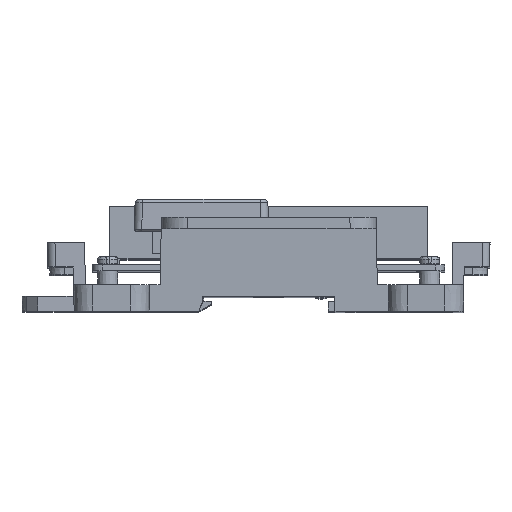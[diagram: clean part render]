
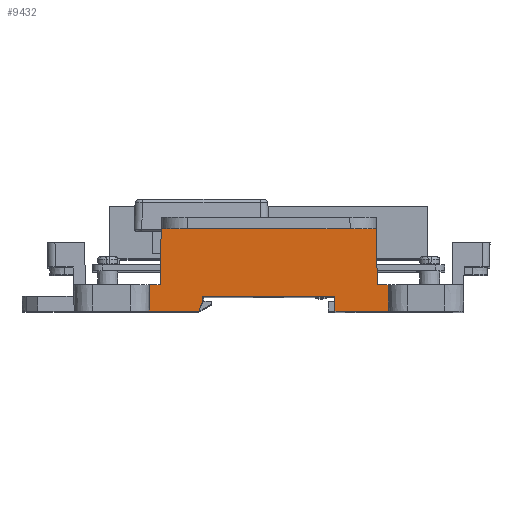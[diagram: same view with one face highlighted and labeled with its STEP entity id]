
A CAD part, top view. The second image highlights one B-rep face of the part: STEP entity #9432.
In plain terms, the highlighted planar face has unit normal (0, -0.018, 1).
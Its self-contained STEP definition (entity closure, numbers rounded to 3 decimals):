
#1366 = LINE ( 'NONE', #65592, #74028 ) ;
#1522 = EDGE_CURVE ( 'NONE', #5820, #2918, #64059, .T. ) ;
#1609 = LINE ( 'NONE', #52935, #16975 ) ;
#2357 = EDGE_CURVE ( 'NONE', #75675, #75863, #13235, .T. ) ;
#2918 = VERTEX_POINT ( 'NONE', #24178 ) ;
#3148 = EDGE_CURVE ( 'NONE', #26474, #33131, #80636, .T. ) ;
#4126 = DIRECTION ( 'NONE',  ( 1., 0., 0. ) ) ;
#4394 = ORIENTED_EDGE ( 'NONE', *, *, #2357, .T. ) ;
#4576 = VECTOR ( 'NONE', #62556, 1000. ) ;
#5820 = VERTEX_POINT ( 'NONE', #34299 ) ;
#6411 = CARTESIAN_POINT ( 'NONE',  ( 17.7, 0., 236.07 ) ) ;
#7372 = VECTOR ( 'NONE', #48095, 1000. ) ;
#7994 = ORIENTED_EDGE ( 'NONE', *, *, #43654, .T. ) ;
#9243 = LINE ( 'NONE', #9667, #36370 ) ;
#9432 = ADVANCED_FACE ( 'NONE', ( #38001 ), #45307, .T. ) ;
#9667 = CARTESIAN_POINT ( 'NONE',  ( 31.981, -2.884, 236.019 ) ) ;
#9977 = VECTOR ( 'NONE', #33102, 1000. ) ;
#10478 = CARTESIAN_POINT ( 'NONE',  ( -17.7, -4., 236. ) ) ;
#10800 = LINE ( 'NONE', #23728, #7372 ) ;
#11351 = VECTOR ( 'NONE', #17467, 1000. ) ;
#13235 = LINE ( 'NONE', #64172, #9977 ) ;
#14649 = CARTESIAN_POINT ( 'NONE',  ( 29., 18., 236.384 ) ) ;
#14893 = VERTEX_POINT ( 'NONE', #42844 ) ;
#16234 = VERTEX_POINT ( 'NONE', #64135 ) ;
#16975 = VECTOR ( 'NONE', #40805, 1000. ) ;
#17467 = DIRECTION ( 'NONE',  ( 1., 0., 0. ) ) ;
#17994 = CARTESIAN_POINT ( 'NONE',  ( -32.001, -4.052, 235.999 ) ) ;
#18458 = CARTESIAN_POINT ( 'NONE',  ( 17.7, -4., 236. ) ) ;
#22584 = DIRECTION ( 'NONE',  ( 0.371, 0.928, 0.016 ) ) ;
#23728 = CARTESIAN_POINT ( 'NONE',  ( 29.104, -2.934, 236.019 ) ) ;
#24178 = CARTESIAN_POINT ( 'NONE',  ( -18.7, -4., 236. ) ) ;
#25529 = VECTOR ( 'NONE', #4126, 1000. ) ;
#26474 = VERTEX_POINT ( 'NONE', #80670 ) ;
#27195 = EDGE_CURVE ( 'NONE', #66623, #14893, #1366, .T. ) ;
#27559 = DIRECTION ( 'NONE',  ( 1., 0., 0. ) ) ;
#30259 = LINE ( 'NONE', #50590, #52927 ) ;
#30533 = ORIENTED_EDGE ( 'NONE', *, *, #3148, .F. ) ;
#31294 = DIRECTION ( 'NONE',  ( 0.017, 1., 0.017 ) ) ;
#31380 = ORIENTED_EDGE ( 'NONE', *, *, #79598, .T. ) ;
#32166 = CARTESIAN_POINT ( 'NONE',  ( 32., -4., 236. ) ) ;
#32896 = VECTOR ( 'NONE', #27559, 1000. ) ;
#33102 = DIRECTION ( 'NONE',  ( 0., -1., -0.017 ) ) ;
#33131 = VERTEX_POINT ( 'NONE', #63739 ) ;
#33186 = EDGE_CURVE ( 'NONE', #65722, #26474, #1609, .T. ) ;
#34299 = CARTESIAN_POINT ( 'NONE',  ( -32., -4., 236. ) ) ;
#35618 = ORIENTED_EDGE ( 'NONE', *, *, #27195, .F. ) ;
#35967 = DIRECTION ( 'NONE',  ( -0.017, 1., 0.017 ) ) ;
#36370 = VECTOR ( 'NONE', #35967, 1000. ) ;
#36537 = ORIENTED_EDGE ( 'NONE', *, *, #44020, .F. ) ;
#37437 = ORIENTED_EDGE ( 'NONE', *, *, #49680, .T. ) ;
#38001 = FACE_OUTER_BOUND ( 'NONE', #54973, .T. ) ;
#38442 = LINE ( 'NONE', #38865, #60864 ) ;
#38865 = CARTESIAN_POINT ( 'NONE',  ( -32., 0., 236.07 ) ) ;
#39544 = EDGE_CURVE ( 'NONE', #5820, #67320, #50328, .T. ) ;
#39939 = ORIENTED_EDGE ( 'NONE', *, *, #39544, .F. ) ;
#40805 = DIRECTION ( 'NONE',  ( 0.017, 1., 0.017 ) ) ;
#41809 = VECTOR ( 'NONE', #81639, 1000. ) ;
#42469 = EDGE_CURVE ( 'NONE', #75863, #75143, #69214, .T. ) ;
#42844 = CARTESIAN_POINT ( 'NONE',  ( 31.878, 3., 236.122 ) ) ;
#43654 = EDGE_CURVE ( 'NONE', #53039, #16234, #75595, .T. ) ;
#43722 = EDGE_CURVE ( 'NONE', #2918, #53039, #30259, .T. ) ;
#44020 = EDGE_CURVE ( 'NONE', #67320, #65722, #69860, .T. ) ;
#45307 = PLANE ( 'NONE',  #67440 ) ;
#45753 = DIRECTION ( 'NONE',  ( 0., -1., -0.017 ) ) ;
#47950 = ORIENTED_EDGE ( 'NONE', *, *, #33186, .F. ) ;
#48095 = DIRECTION ( 'NONE',  ( 0.017, -1., -0.017 ) ) ;
#49680 = EDGE_CURVE ( 'NONE', #75143, #14893, #9243, .T. ) ;
#49805 = CARTESIAN_POINT ( 'NONE',  ( -31.878, 3., 236.122 ) ) ;
#50328 = LINE ( 'NONE', #17994, #68654 ) ;
#50590 = CARTESIAN_POINT ( 'NONE',  ( -20.534, -8.585, 235.92 ) ) ;
#51391 = CARTESIAN_POINT ( 'NONE',  ( -32., -4., 236. ) ) ;
#51619 = ORIENTED_EDGE ( 'NONE', *, *, #43722, .T. ) ;
#52863 = ORIENTED_EDGE ( 'NONE', *, *, #60454, .F. ) ;
#52927 = VECTOR ( 'NONE', #22584, 1000. ) ;
#52935 = CARTESIAN_POINT ( 'NONE',  ( -29.123, -4.05, 235.999 ) ) ;
#53039 = VERTEX_POINT ( 'NONE', #83196 ) ;
#53961 = DIRECTION ( 'NONE',  ( 1., 0., 0. ) ) ;
#54785 = ORIENTED_EDGE ( 'NONE', *, *, #1522, .T. ) ;
#54973 = EDGE_LOOP ( 'NONE', ( #54785, #51619, #7994, #31380, #4394, #55896, #37437, #35618, #52863, #30533, #47950, #36537, #39939 ) ) ;
#55896 = ORIENTED_EDGE ( 'NONE', *, *, #42469, .T. ) ;
#60454 = EDGE_CURVE ( 'NONE', #33131, #66623, #10800, .T. ) ;
#60864 = VECTOR ( 'NONE', #70797, 1000. ) ;
#62497 = CARTESIAN_POINT ( 'NONE',  ( 29., 3., 236.122 ) ) ;
#62556 = DIRECTION ( 'NONE',  ( 1., 0., 0. ) ) ;
#62761 = CARTESIAN_POINT ( 'NONE',  ( -32., -4., 236. ) ) ;
#63206 = CARTESIAN_POINT ( 'NONE',  ( -32., -4., 236. ) ) ;
#63739 = CARTESIAN_POINT ( 'NONE',  ( 28.738, 18., 236.384 ) ) ;
#64059 = LINE ( 'NONE', #63206, #25529 ) ;
#64135 = CARTESIAN_POINT ( 'NONE',  ( -17.7, 0., 236.07 ) ) ;
#64172 = CARTESIAN_POINT ( 'NONE',  ( 17.7, -4., 236. ) ) ;
#65592 = CARTESIAN_POINT ( 'NONE',  ( -32., 3., 236.122 ) ) ;
#65722 = VERTEX_POINT ( 'NONE', #79356 ) ;
#66623 = VERTEX_POINT ( 'NONE', #62497 ) ;
#67320 = VERTEX_POINT ( 'NONE', #49805 ) ;
#67440 = AXIS2_PLACEMENT_3D ( 'NONE', #51391, #83658, #45753 ) ;
#68654 = VECTOR ( 'NONE', #31294, 1000. ) ;
#69214 = LINE ( 'NONE', #62761, #11351 ) ;
#69860 = LINE ( 'NONE', #82782, #4576 ) ;
#70797 = DIRECTION ( 'NONE',  ( 1., 0., 0. ) ) ;
#74028 = VECTOR ( 'NONE', #53961, 1000. ) ;
#75143 = VERTEX_POINT ( 'NONE', #32166 ) ;
#75595 = LINE ( 'NONE', #10478, #41809 ) ;
#75675 = VERTEX_POINT ( 'NONE', #6411 ) ;
#75863 = VERTEX_POINT ( 'NONE', #18458 ) ;
#79356 = CARTESIAN_POINT ( 'NONE',  ( -29., 3., 236.122 ) ) ;
#79598 = EDGE_CURVE ( 'NONE', #16234, #75675, #38442, .T. ) ;
#80636 = LINE ( 'NONE', #14649, #32896 ) ;
#80670 = CARTESIAN_POINT ( 'NONE',  ( -28.738, 18., 236.384 ) ) ;
#81639 = DIRECTION ( 'NONE',  ( 0., 1., 0.017 ) ) ;
#82782 = CARTESIAN_POINT ( 'NONE',  ( -32., 3., 236.122 ) ) ;
#83196 = CARTESIAN_POINT ( 'NONE',  ( -17.7, -1.5, 236.044 ) ) ;
#83658 = DIRECTION ( 'NONE',  ( 0., -0.017, 1. ) ) ;
